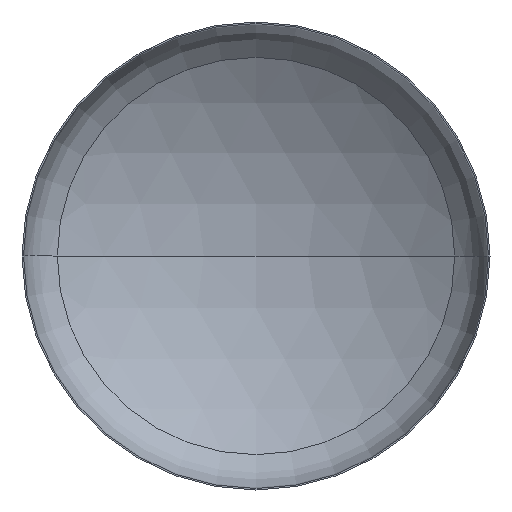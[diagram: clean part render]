
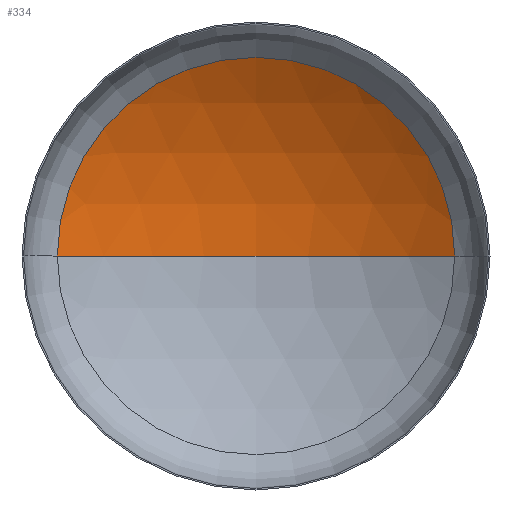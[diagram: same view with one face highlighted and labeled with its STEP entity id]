
A CAD part, front view. The second image highlights one B-rep face of the part: STEP entity #334.
In plain terms, the highlighted spherical face has radius 4000 mm.
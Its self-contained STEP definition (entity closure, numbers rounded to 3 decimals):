
#1 = EDGE_LOOP ( 'NONE', ( #192, #95, #85 ) ) ;
#8 = CARTESIAN_POINT ( 'NONE',  ( 0., 707.645, 0. ) ) ;
#24 = AXIS2_PLACEMENT_3D ( 'NONE', #158, #126, #159 ) ;
#37 = AXIS2_PLACEMENT_3D ( 'NONE', #177, #183, #329 ) ;
#61 = VERTEX_POINT ( 'NONE', #247 ) ;
#69 = FACE_OUTER_BOUND ( 'NONE', #1, .T. ) ;
#85 = ORIENTED_EDGE ( 'NONE', *, *, #154, .T. ) ;
#93 = VERTEX_POINT ( 'NONE', #249 ) ;
#95 = ORIENTED_EDGE ( 'NONE', *, *, #157, .T. ) ;
#98 = AXIS2_PLACEMENT_3D ( 'NONE', #190, #229, #227 ) ;
#101 = AXIS2_PLACEMENT_3D ( 'NONE', #8, #261, #284 ) ;
#107 = VERTEX_POINT ( 'NONE', #339 ) ;
#126 = DIRECTION ( 'NONE',  ( 0., 0., 1. ) ) ;
#154 = EDGE_CURVE ( 'NONE', #107, #61, #216, .T. ) ;
#155 = CIRCLE ( 'NONE', #98, 4000. ) ;
#157 = EDGE_CURVE ( 'NONE', #93, #107, #155, .T. ) ;
#158 = CARTESIAN_POINT ( 'NONE',  ( 0., -2682.719, 0. ) ) ;
#159 = DIRECTION ( 'NONE',  ( 1., 0., 0. ) ) ;
#177 = CARTESIAN_POINT ( 'NONE',  ( 0., -2682.719, 0. ) ) ;
#183 = DIRECTION ( 'NONE',  ( 0., 0., -1. ) ) ;
#186 = CIRCLE ( 'NONE', #24, 4000. ) ;
#190 = CARTESIAN_POINT ( 'NONE',  ( 0., -2682.719, 0. ) ) ;
#192 = ORIENTED_EDGE ( 'NONE', *, *, #357, .F. ) ;
#216 = CIRCLE ( 'NONE', #101, 2122.601 ) ;
#227 = DIRECTION ( 'NONE',  ( -1., 0., 0. ) ) ;
#229 = DIRECTION ( 'NONE',  ( 0., 0., -1. ) ) ;
#247 = CARTESIAN_POINT ( 'NONE',  ( -2122.601, 707.645, 0. ) ) ;
#249 = CARTESIAN_POINT ( 'NONE',  ( 0., 1317.281, 0. ) ) ;
#261 = DIRECTION ( 'NONE',  ( 0., -1., 0. ) ) ;
#284 = DIRECTION ( 'NONE',  ( 1., 0., 0. ) ) ;
#321 = SPHERICAL_SURFACE ( 'NONE', #37, 4000. ) ;
#329 = DIRECTION ( 'NONE',  ( -1., 0., 0. ) ) ;
#334 = ADVANCED_FACE ( 'NONE', ( #69 ), #321, .F. ) ;
#339 = CARTESIAN_POINT ( 'NONE',  ( 2122.601, 707.645, 0. ) ) ;
#357 = EDGE_CURVE ( 'NONE', #93, #61, #186, .T. ) ;
